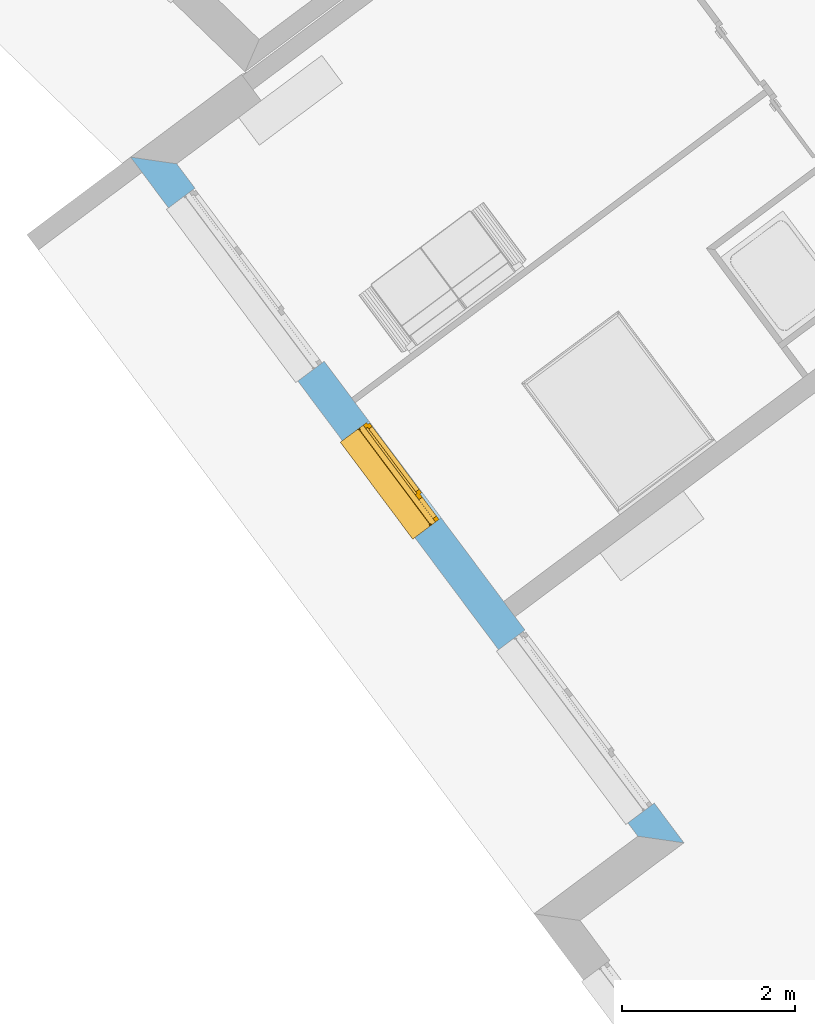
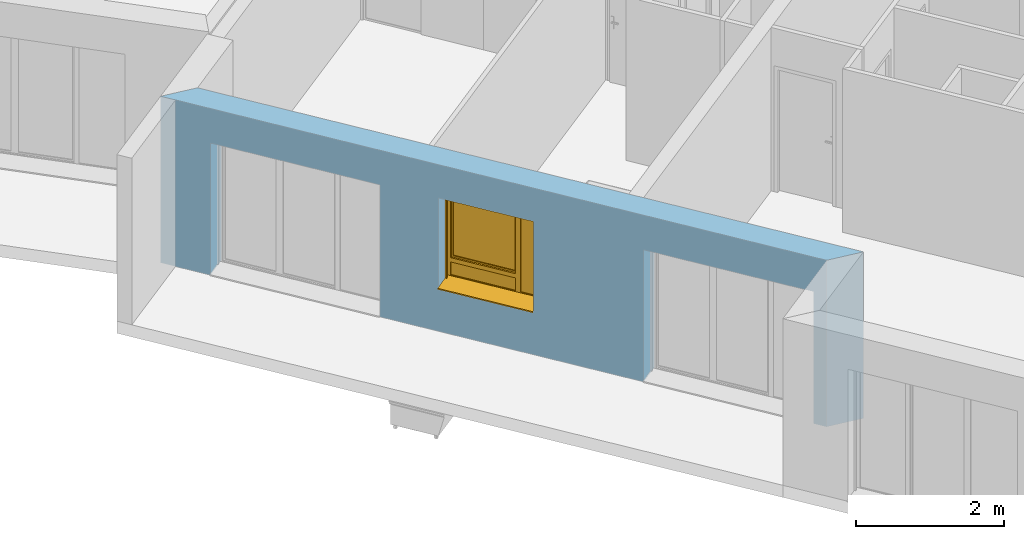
# One storey, part 6 of 195: 1 window, 3 openings, plus 1 element that does not belong to this part.
"""IFC2X3 building model written with IfcOpenShell, lengths in metres."""

from ifc_helpers import new_model, entity, si_unit, converted_unit, derived_unit, money_unit, direction, frame, origin_with_axes, place, context, subcontext, project, spatial, polyline, outline, extrude, open_shell, faceted_brep, surface_model, source, transform, mapped, material, layer, layer_set, layer_usage, type_object, element, fill, save


model = new_model("IFC2X3")

# Units and contexts
model_context = context("Model", 3, precision=1e-05, world=origin_with_axes(), true_north=direction((0.0, 1.0)))
body_context = subcontext(model_context, "Body", "Model", "MODEL_VIEW")
ifc_project = project(units=[si_unit("LENGTHUNIT", "METRE"), si_unit("AREAUNIT", "SQUARE_METRE"), si_unit("VOLUMEUNIT", "CUBIC_METRE"), converted_unit("PLANEANGLEUNIT", "DEGREE", entity("IfcPlaneAngleMeasure", 0.0174532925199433), si_unit("PLANEANGLEUNIT", "RADIAN"), dimensions=[0, 0, 0, 0, 0, 0, 0]), money_unit("CHF"), converted_unit("TIMEUNIT", "Year", entity("IfcTimeMeasure", 31557600.0), si_unit("TIMEUNIT", "SECOND"), dimensions=[0, 0, 1, 0, 0, 0, 0]), si_unit("MASSUNIT", "GRAM", prefix="KILO"), si_unit("THERMODYNAMICTEMPERATUREUNIT", "DEGREE_CELSIUS"), si_unit("LUMINOUSINTENSITYUNIT", "LUMEN"), si_unit("ENERGYUNIT", "JOULE", prefix="MEGA"), derived_unit("THERMALCONDUCTANCEUNIT", [(si_unit("POWERUNIT", "WATT"), 1), (si_unit("LENGTHUNIT", "METRE"), -1), (si_unit("THERMODYNAMICTEMPERATUREUNIT", "KELVIN"), -1)]), derived_unit("SPECIFICHEATCAPACITYUNIT", [(si_unit("ENERGYUNIT", "JOULE"), 1), (si_unit("MASSUNIT", "GRAM", prefix="KILO"), -1), (si_unit("THERMODYNAMICTEMPERATUREUNIT", "KELVIN"), -1)]), derived_unit("MASSDENSITYUNIT", [(si_unit("MASSUNIT", "GRAM", prefix="KILO"), 1), (si_unit("VOLUMEUNIT", "CUBIC_METRE"), -1)])], contexts=[model_context])

# Site, building, storey
site_placement = place(None, origin_with_axes())
site = spatial("IfcSite", under=ifc_project, at=site_placement, Name="Site", CompositionType="ELEMENT")
building_placement = place(site_placement, origin_with_axes())
building = spatial("IfcBuilding", under=site, at=building_placement, Name="Bâtiment", CompositionType="ELEMENT")
storey_placement = place(building_placement, origin_with_axes())
storey = spatial("IfcBuildingStorey", under=building, at=storey_placement, Name="rdc", CompositionType="ELEMENT", Elevation=0.0)

# Wall, openings, window
ifc_material_1 = material(Name="Parpaing 312445824")
ifc_layer_1 = layer(ifc_material_1, 0.22, ventilated="UNKNOWN")
ifc_material_2 = material(Name="Isolant styromousse 301821074")
ifc_layer_2 = layer(ifc_material_2, 0.16, ventilated="UNKNOWN")
ifc_layer_set = layer_set([ifc_layer_1, ifc_layer_2], Name="isol int 22+16 0836643197")
ifc_layer_usage = layer_usage(ifc_layer_set, "AXIS2", "POSITIVE", 0.0)
wall_type = type_object("IfcWallType", Name="isol int 22+16 0836643197 380", PredefinedType="NOTDEFINED")
wall_placement = place(storey_placement, frame((9528.242165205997, -1076.621814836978, 57.7), z_axis=(0.0, 0.0, 1.0), x_axis=(0.5984464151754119, -0.8011628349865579, 0.0)))
wall = element("IfcWallStandardCase", 1, at=wall_placement, inside=storey, type_object=wall_type, material=ifc_layer_usage, Name="Mur-113", context=body_context, shape_type="SweptSolid", body=[
    extrude(outline(polyline([(-1.48929757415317e-10, 0.0), (9.803691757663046, 0.0), (10.18369175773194, 0.3799999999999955), (0.3799999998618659, 0.3799999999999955), (-1.48929757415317e-10, 0.0)])), origin_with_axes(), (0.0, 0.0, 1.0), 2.75),
])
opening_1_placement = place(wall_placement, frame((1.982307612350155, 0.0, 0.0), z_axis=(0.0, 0.0, 1.0), x_axis=(1.0, 0.0, 0.0)))
element("IfcOpeningElement", 2, at=opening_1_placement, cuts=wall, Name="Fen-045", context=body_context, shape_type="Brep", body=[
    faceted_brep([(-1.25, 0.4799999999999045, 2.18), (1.250000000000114, 0.4799999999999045, 2.18), (1.25, 5.081409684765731, 2.18), (-1.25, 5.081409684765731, 2.18), (-1.25, 0.4799999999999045, 2.380000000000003), (1.250000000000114, 0.4799999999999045, 2.380000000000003), (1.25, 0.2999999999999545, 2.18), (1.25, 0.2999999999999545, 0.0), (1.25, 5.081409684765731, 0.0), (-1.25, 5.081409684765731, 0.0), (-1.249999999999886, 0.2999999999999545, 2.18), (-1.249999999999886, 0.2999999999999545, 0.0), (-1.25, 0.2199999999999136, 2.18), (-1.25, 0.2199999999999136, 2.380000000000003), (1.250000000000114, 0.2200000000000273, 2.380000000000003), (1.250000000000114, 0.2200000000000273, 2.18), (1.25, -4.701409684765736, 2.18), (1.25, -4.701409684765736, 0.0), (-1.25, -4.701409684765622, 0.0), (-1.25, -4.701409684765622, 2.18)], [[[0, 1, 2, 3]], [[1, 0, 4, 5]], [[1, 6, 7, 8, 2]], [[2, 8, 9, 3]], [[10, 0, 3, 9, 11]], [[0, 10, 12, 13, 4]], [[14, 5, 4, 13]], [[6, 1, 5, 14, 15]], [[6, 15, 16, 17, 7]], [[7, 11, 9, 8]], [[12, 10, 11, 18, 19]], [[12, 15, 14, 13]], [[15, 12, 19, 16]], [[19, 18, 17, 16]], [[11, 7, 17, 18]]]),
])
opening_2_placement = place(wall_placement, frame((4.792672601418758, 0.0, 0.7000000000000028), z_axis=(0.0, 0.0, 1.0), x_axis=(1.0, 0.0, 0.0)))
opening_2 = element("IfcOpeningElement", 3, at=opening_2_placement, cuts=wall, Name="Fen-045", context=body_context, shape_type="Brep", body=[
    faceted_brep([(-0.7000000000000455, 0.4799999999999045, 1.5), (0.7000000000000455, 0.4799999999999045, 1.5), (0.7000000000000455, 5.081409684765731, 1.5), (-0.7000000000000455, 5.081409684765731, 1.5), (-0.7000000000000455, 0.4799999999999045, 1.700000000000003), (0.7000000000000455, 0.4799999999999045, 1.700000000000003), (0.7000000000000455, 0.2999999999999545, 1.5), (0.7000000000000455, 0.2999999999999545, 0.0), (0.7000000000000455, 5.081409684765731, 0.0), (-0.7000000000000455, 5.081409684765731, 0.0), (-0.7000000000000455, 0.2999999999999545, 1.5), (-0.7000000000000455, 0.2999999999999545, 0.0), (-0.7000000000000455, 0.2200000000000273, 1.5), (-0.7000000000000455, 0.2200000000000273, 1.700000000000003), (0.7000000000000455, 0.2200000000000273, 1.700000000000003), (0.7000000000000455, 0.2200000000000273, 1.5), (0.7000000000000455, -4.701409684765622, 1.5), (0.7000000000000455, -4.701409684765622, 0.0), (-0.7000000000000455, -4.701409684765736, 0.0), (-0.7000000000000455, -4.701409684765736, 1.5)], [[[0, 1, 2, 3]], [[1, 0, 4, 5]], [[1, 6, 7, 8, 2]], [[2, 8, 9, 3]], [[10, 0, 3, 9, 11]], [[0, 10, 12, 13, 4]], [[14, 5, 4, 13]], [[6, 1, 5, 14, 15]], [[6, 15, 16, 17, 7]], [[7, 11, 9, 8]], [[12, 10, 11, 18, 19]], [[12, 15, 14, 13]], [[15, 12, 19, 16]], [[19, 18, 17, 16]], [[11, 7, 17, 18]]]),
])
opening_3_placement = place(wall_placement, frame((8.361343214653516, 0.0, 0.0), z_axis=(0.0, 0.0, 1.0), x_axis=(1.0, 0.0, 0.0)))
element("IfcOpeningElement", 4, at=opening_3_placement, cuts=wall, Name="Fen-045", context=body_context, shape_type="Brep", body=[
    faceted_brep([(-1.250000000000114, 0.4800000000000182, 2.18), (1.25, 0.4800000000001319, 2.18), (1.25, 5.081409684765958, 2.18), (-1.250000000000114, 5.081409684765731, 2.18), (-1.250000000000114, 0.4800000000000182, 2.380000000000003), (1.25, 0.4800000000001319, 2.380000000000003), (1.25, 0.3000000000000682, 2.18), (1.25, 0.3000000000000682, 0.0), (1.25, 5.081409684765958, 0.0), (-1.250000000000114, 5.081409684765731, 0.0), (-1.250000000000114, 0.3000000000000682, 2.18), (-1.250000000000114, 0.3000000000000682, 0.0), (-1.25, 0.220000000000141, 2.18), (-1.25, 0.220000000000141, 2.380000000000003), (1.25, 0.220000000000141, 2.380000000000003), (1.25, 0.220000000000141, 2.18), (1.249999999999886, -4.701409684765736, 2.18), (1.249999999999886, -4.701409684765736, 0.0), (-1.25, -4.701409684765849, 0.0), (-1.25, -4.701409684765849, 2.18)], [[[0, 1, 2, 3]], [[1, 0, 4, 5]], [[1, 6, 7, 8, 2]], [[2, 8, 9, 3]], [[10, 0, 3, 9, 11]], [[0, 10, 12, 13, 4]], [[14, 5, 4, 13]], [[6, 1, 5, 14, 15]], [[6, 15, 16, 17, 7]], [[7, 11, 9, 8]], [[12, 10, 11, 18, 19]], [[12, 15, 14, 13]], [[15, 12, 19, 16]], [[19, 18, 17, 16]], [[11, 7, 17, 18]]]),
])
window_style = type_object("IfcWindowStyle", Name="Fenêtre variable 27", ConstructionType="NOTDEFINED", OperationType="TRIPLE_PANEL_RIGHT", ParameterTakesPrecedence=False, Sizeable=False)
shared_shape = source(origin_with_axes(), body_context, "Body", "SurfaceModel", [
    surface_model("IfcShellBasedSurfaceModel", [(-0.7, -0.05100000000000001, 0.05), (-0.7, -0.05100000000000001, 0.04), (0.7, -0.05100000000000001, 0.04000000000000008), (0.7, -0.05100000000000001, 0.05000000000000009), (-0.7, -0.3799999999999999, 0.02899999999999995), (0.7, -0.3799999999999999, 0.02900000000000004), (-0.7, -0.3799999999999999, 0.008999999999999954), (0.7, -0.3799999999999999, 0.00900000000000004), (-0.7, -0.3699999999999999, 0.01899999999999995), (0.7, -0.3699999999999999, 0.01900000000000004)], [open_shell([[[0, 1, 2, 3]], [[1, 4, 5, 2]], [[4, 6, 7, 5]], [[6, 8, 9, 7]]])]),
    faceted_brep([(-0.7, -0.13, 1.7), (-0.697, -0.13, 1.7), (-0.697, 0.13, 1.7), (-0.7, 0.13, 1.7), (-0.7, -0.13, 1.5), (-0.697, -0.13, 1.5), (-0.697, 0.13, 1.5), (-0.7, 0.13, 1.5)], [[[0, 1, 2, 3]], [[4, 5, 1, 0]], [[1, 5, 6, 2]], [[3, 2, 6, 7]], [[0, 3, 7, 4]], [[7, 6, 5, 4]]]),
    faceted_brep([(0.6970000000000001, -0.1299999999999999, 1.7), (0.7000000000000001, -0.1299999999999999, 1.7), (0.7000000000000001, 0.1300000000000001, 1.7), (0.6970000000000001, 0.1300000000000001, 1.7), (0.6970000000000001, -0.1299999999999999, 1.5), (0.7000000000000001, -0.1299999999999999, 1.5), (0.7000000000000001, 0.1300000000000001, 1.5), (0.6970000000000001, 0.1300000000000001, 1.5)], [[[0, 1, 2, 3]], [[4, 5, 1, 0]], [[1, 5, 6, 2]], [[3, 2, 6, 7]], [[0, 3, 7, 4]], [[7, 6, 5, 4]]]),
    faceted_brep([(-0.697, -0.13, 1.5), (0.697, -0.1299999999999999, 1.5), (0.697, -0.1299999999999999, 1.7), (-0.697, -0.13, 1.7), (-0.697, -0.127, 1.5), (0.697, -0.1269999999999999, 1.5), (0.697, -0.1269999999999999, 1.697), (0.697, 0.1270000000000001, 1.697), (0.697, 0.1270000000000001, 1.503), (0.697, -0.1079999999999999, 1.503), (0.697, -0.1079999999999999, 1.5), (0.697, 0.1300000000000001, 1.5), (0.697, 0.1300000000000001, 1.7), (-0.697, 0.13, 1.7), (-0.697, 0.13, 1.5), (-0.697, -0.108, 1.5), (-0.697, -0.108, 1.503), (-0.697, 0.127, 1.503), (-0.697, 0.127, 1.697), (-0.697, -0.127, 1.697)], [[[0, 1, 2, 3]], [[4, 5, 1, 0]], [[1, 5, 6, 7, 8, 9, 10, 11, 12, 2]], [[3, 2, 12, 13]], [[0, 3, 13, 14, 15, 16, 17, 18, 19, 4]], [[19, 6, 5, 4]], [[18, 7, 6, 19]], [[17, 8, 7, 18]], [[16, 9, 8, 17]], [[15, 10, 9, 16]], [[14, 11, 10, 15]], [[13, 12, 11, 14]]]),
    faceted_brep([(-0.694, -0.08075423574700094, 1.585760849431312), (-0.694, -0.08200000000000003, 1.6), (-0.694, -0.0807542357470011, 1.614239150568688), (-0.694, -0.07705479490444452, 1.628045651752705), (-0.694, -0.07101408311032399, 1.641), (-0.694, -0.06281564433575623, 1.652708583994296), (-0.694, -0.05270858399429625, 1.662815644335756), (-0.694, -0.04100000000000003, 1.671014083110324), (-0.694, -0.02804565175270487, 1.677054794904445), (-0.694, -0.01423915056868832, 1.680754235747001), (-0.694, 0.0, 1.682), (-0.694, 0.01423915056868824, 1.680754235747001), (-0.694, 0.02804565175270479, 1.677054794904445), (-0.694, 0.04099999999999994, 1.671014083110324), (-0.694, 0.05270858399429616, 1.662815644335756), (-0.694, 0.06281564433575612, 1.652708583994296), (-0.694, 0.07101408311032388, 1.641), (-0.694, 0.0770547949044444, 1.628045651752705), (-0.694, 0.08075423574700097, 1.614239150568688), (-0.694, 0.0819999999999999, 1.6), (-0.694, 0.08075423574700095, 1.585760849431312), (-0.694, 0.07705479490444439, 1.571954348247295), (-0.694, 0.07101408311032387, 1.559), (-0.694, 0.06281564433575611, 1.547291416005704), (-0.694, 0.05270858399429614, 1.537184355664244), (-0.694, 0.04099999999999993, 1.528985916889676), (-0.694, 0.02804565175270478, 1.522945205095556), (-0.694, 0.01423915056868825, 1.519245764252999), (-0.694, 0.0, 1.518), (-0.694, -0.01423915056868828, 1.519245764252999), (-0.694, -0.02804565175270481, 1.522945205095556), (-0.694, -0.04099999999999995, 1.528985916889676), (-0.694, -0.05270858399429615, 1.537184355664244), (-0.694, -0.06281564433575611, 1.547291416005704), (-0.694, -0.07101408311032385, 1.559), (-0.694, -0.07705479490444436, 1.571954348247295), (0.694, -0.08075423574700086, 1.585760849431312), (0.694, -0.08199999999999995, 1.6), (0.694, -0.08075423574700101, 1.614239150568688), (0.694, -0.07705479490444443, 1.628045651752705), (0.694, -0.07101408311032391, 1.641), (0.694, -0.06281564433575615, 1.652708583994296), (0.694, -0.05270858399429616, 1.662815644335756), (0.694, -0.04099999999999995, 1.671014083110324), (0.694, -0.02804565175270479, 1.677054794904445), (0.694, -0.01423915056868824, 1.680754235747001), (0.694, 0.0, 1.682), (0.694, 0.01423915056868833, 1.680754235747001), (0.694, 0.02804565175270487, 1.677054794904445), (0.694, 0.04100000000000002, 1.671014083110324), (0.694, 0.05270858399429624, 1.662815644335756), (0.694, 0.0628156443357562, 1.652708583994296), (0.694, 0.07101408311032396, 1.641), (0.694, 0.07705479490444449, 1.628045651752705), (0.694, 0.08075423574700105, 1.614239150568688), (0.694, 0.08199999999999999, 1.6), (0.694, 0.08075423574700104, 1.585760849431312), (0.694, 0.07705479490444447, 1.571954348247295), (0.694, 0.07101408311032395, 1.559), (0.694, 0.06281564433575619, 1.547291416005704), (0.694, 0.05270858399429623, 1.537184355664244), (0.694, 0.04100000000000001, 1.528985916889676), (0.694, 0.02804565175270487, 1.522945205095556), (0.694, 0.01423915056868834, 1.519245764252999), (0.694, 0.0, 1.518), (0.694, -0.0142391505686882, 1.519245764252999), (0.694, -0.02804565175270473, 1.522945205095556), (0.694, -0.04099999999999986, 1.528985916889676), (0.694, -0.05270858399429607, 1.537184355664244), (0.694, -0.06281564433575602, 1.547291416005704), (0.694, -0.07101408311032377, 1.559), (0.694, -0.07705479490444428, 1.571954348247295)], [[[0, 1, 2, 3, 4, 5, 6, 7, 8, 9, 10, 11, 12, 13, 14, 15, 16, 17, 18, 19, 20, 21, 22, 23, 24, 25, 26, 27, 28, 29, 30, 31, 32, 33, 34, 35]], [[0, 36, 37, 1]], [[1, 37, 38, 2]], [[2, 38, 39, 3]], [[3, 39, 40, 4]], [[4, 40, 41, 5]], [[5, 41, 42, 6]], [[6, 42, 43, 7]], [[7, 43, 44, 8]], [[8, 44, 45, 9]], [[9, 45, 46, 10]], [[10, 46, 47, 11]], [[11, 47, 48, 12]], [[12, 48, 49, 13]], [[13, 49, 50, 14]], [[14, 50, 51, 15]], [[15, 51, 52, 16]], [[16, 52, 53, 17]], [[17, 53, 54, 18]], [[18, 54, 55, 19]], [[19, 55, 56, 20]], [[20, 56, 57, 21]], [[21, 57, 58, 22]], [[22, 58, 59, 23]], [[23, 59, 60, 24]], [[24, 60, 61, 25]], [[25, 61, 62, 26]], [[26, 62, 63, 27]], [[27, 63, 64, 28]], [[28, 64, 65, 29]], [[29, 65, 66, 30]], [[30, 66, 67, 31]], [[31, 67, 68, 32]], [[32, 68, 69, 33]], [[33, 69, 70, 34]], [[34, 70, 71, 35]], [[35, 71, 36, 0]], [[36, 71, 70, 69, 68, 67, 66, 65, 64, 63, 62, 61, 60, 59, 58, 57, 56, 55, 54, 53, 52, 51, 50, 49, 48, 47, 46, 45, 44, 43, 42, 41, 40, 39, 38, 37]]]),
    faceted_brep([(0.7, -0.105, 0.03), (0.7, -0.1049999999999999, 1.5), (0.7, -0.1299999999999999, 1.5), (0.7, -0.13, 0.03), (0.6749999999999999, -0.105, 0.03), (0.6749999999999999, -0.1049999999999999, 1.5), (0.6749999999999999, -0.1079999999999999, 1.5), (0.697, -0.1079999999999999, 1.5), (0.697, -0.1269999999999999, 1.5), (0.6749999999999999, -0.1269999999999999, 1.5), (0.6749999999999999, -0.1299999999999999, 1.5), (0.6749999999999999, -0.13, 0.03), (0.6749999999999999, -0.127, 0.03), (0.697, -0.127, 0.03), (0.697, -0.108, 0.03), (0.6749999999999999, -0.108, 0.03)], [[[0, 1, 2, 3]], [[4, 5, 1, 0]], [[1, 5, 6, 7, 8, 9, 10, 2]], [[3, 2, 10, 11]], [[0, 3, 11, 12, 13, 14, 15, 4]], [[15, 6, 5, 4]], [[14, 7, 6, 15]], [[13, 8, 7, 14]], [[12, 9, 8, 13]], [[11, 10, 9, 12]]]),
    faceted_brep([(-0.7, -0.105, 0.03), (-0.7, -0.13, 0.03), (-0.7, -0.1299999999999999, 1.5), (-0.7, -0.1049999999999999, 1.5), (-0.6749999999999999, -0.105, 0.03), (-0.6749999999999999, -0.108, 0.03), (-0.697, -0.108, 0.03), (-0.697, -0.127, 0.03), (-0.6749999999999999, -0.127, 0.03), (-0.6749999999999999, -0.13, 0.03), (-0.6749999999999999, -0.1299999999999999, 1.5), (-0.6749999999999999, -0.1269999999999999, 1.5), (-0.697, -0.1269999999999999, 1.5), (-0.697, -0.1079999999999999, 1.5), (-0.6749999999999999, -0.1079999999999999, 1.5), (-0.6749999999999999, -0.1049999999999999, 1.5)], [[[0, 1, 2, 3]], [[0, 4, 5, 6, 7, 8, 9, 1]], [[1, 9, 10, 2]], [[3, 2, 10, 11, 12, 13, 14, 15]], [[4, 0, 3, 15]], [[5, 4, 15, 14]], [[6, 5, 14, 13]], [[7, 6, 13, 12]], [[8, 7, 12, 11]], [[9, 8, 11, 10]]]),
    surface_model("IfcShellBasedSurfaceModel", [(-0.697, -0.115, 1.6), (0.697, -0.1149999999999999, 1.6), (0.697, -0.1199999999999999, 1.6), (-0.697, -0.12, 1.6), (-0.697, -0.115, 1.6), (-0.697, -0.12, 1.6), (0.697, -0.12, 1.6), (0.697, -0.1149999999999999, 1.6)], [open_shell([[[0, 1, 2, 3]], [[4, 5, 6, 7]]])]),
    faceted_brep([(-0.697, -0.115, 1.6), (0.697, -0.1149999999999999, 1.6), (0.697, -0.1166666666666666, 1.583333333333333), (-0.697, -0.1166666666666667, 1.583333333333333), (-0.697, -0.12, 1.6), (0.697, -0.1199999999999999, 1.6), (0.697, -0.1216666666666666, 1.583333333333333), (0.697, -0.1216666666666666, 1.566666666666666), (0.697, -0.1199999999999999, 1.55), (0.697, -0.1149999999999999, 1.55), (0.697, -0.1166666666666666, 1.566666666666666), (-0.697, -0.1166666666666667, 1.566666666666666), (-0.697, -0.115, 1.55), (-0.697, -0.12, 1.55), (-0.697, -0.1216666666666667, 1.566666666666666), (-0.697, -0.1216666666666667, 1.583333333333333)], [[[0, 1, 2, 3]], [[4, 5, 1, 0]], [[1, 5, 6, 7, 8, 9, 10, 2]], [[3, 2, 10, 11]], [[0, 3, 11, 12, 13, 14, 15, 4]], [[15, 6, 5, 4]], [[14, 7, 6, 15]], [[13, 8, 7, 14]], [[12, 9, 8, 13]], [[11, 10, 9, 12]]]),
    faceted_brep([(-0.697, -0.115, 1.55), (0.697, -0.1149999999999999, 1.55), (0.697, -0.1166666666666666, 1.533333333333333), (-0.697, -0.1166666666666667, 1.533333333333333), (-0.697, -0.12, 1.55), (0.697, -0.1199999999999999, 1.55), (0.697, -0.1216666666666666, 1.533333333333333), (0.697, -0.1216666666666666, 1.516666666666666), (0.697, -0.1199999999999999, 1.5), (0.697, -0.1149999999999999, 1.5), (0.697, -0.1166666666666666, 1.516666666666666), (-0.697, -0.1166666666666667, 1.516666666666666), (-0.697, -0.115, 1.5), (-0.697, -0.12, 1.5), (-0.697, -0.1216666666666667, 1.516666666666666), (-0.697, -0.1216666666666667, 1.533333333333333)], [[[0, 1, 2, 3]], [[4, 5, 1, 0]], [[1, 5, 6, 7, 8, 9, 10, 2]], [[3, 2, 10, 11]], [[0, 3, 11, 12, 13, 14, 15, 4]], [[15, 6, 5, 4]], [[14, 7, 6, 15]], [[13, 8, 7, 14]], [[12, 9, 8, 13]], [[11, 10, 9, 12]]]),
    faceted_brep([(-0.6749999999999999, 0.0, 1.45), (-0.7, 0.0, 1.45), (-0.7, -0.05000000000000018, 1.45), (-0.6499999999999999, -0.05000000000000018, 1.45), (-0.6499999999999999, -0.02500000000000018, 1.45), (-0.6749999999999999, -0.02500000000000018, 1.45), (-0.6749999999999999, 0.0, 0.3099999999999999), (-0.6499999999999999, 0.0, 0.3099999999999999), (-0.6499999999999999, 0.0, 0.265), (-0.6499999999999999, 0.0, 0.05000000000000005), (-0.7, 0.0, 0.05000000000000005), (-0.7, -0.05000000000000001, 0.05000000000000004), (-0.6499999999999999, -0.05000000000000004, 0.335), (-0.6499999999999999, -0.05000000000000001, 0.05000000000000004), (-0.6499999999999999, -0.05000000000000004, 0.265), (-0.6499999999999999, -0.02500000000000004, 0.335), (-0.6499999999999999, -0.02500000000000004, 0.3099999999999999), (-0.6749999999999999, -0.02500000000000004, 0.3099999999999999)], [[[0, 1, 2, 3, 4, 5]], [[6, 7, 8, 9, 10, 1, 0]], [[1, 10, 11, 2]], [[12, 3, 2, 11, 13, 14]], [[4, 3, 12, 15]], [[15, 16, 17, 5, 4]], [[5, 17, 6, 0]], [[6, 17, 16, 7]], [[16, 15, 12, 14, 8, 7]], [[9, 8, 14, 13]], [[10, 9, 13, 11]]]),
    faceted_brep([(0.3068894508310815, -0.02500000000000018, 1.45), (0.3068894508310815, -0.05000000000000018, 1.45), (0.3768894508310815, -0.05000000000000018, 1.45), (0.3768894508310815, 0.0, 1.45), (0.3318894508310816, 0.0, 1.45), (0.3318894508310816, -0.02500000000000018, 1.45), (0.3068894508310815, -0.02500000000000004, 0.335), (0.3068894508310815, -0.05000000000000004, 0.335), (0.3068894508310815, -0.05000000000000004, 0.265), (0.3068894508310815, -0.05000000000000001, 0.05000000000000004), (0.3768894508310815, -0.05000000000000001, 0.05000000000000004), (0.3768894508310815, 0.0, 0.05000000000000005), (0.3318894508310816, 0.0, 0.3099999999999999), (0.3068894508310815, 0.0, 0.05000000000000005), (0.3068894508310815, 0.0, 0.265), (0.3068894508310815, 0.0, 0.3099999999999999), (0.3318894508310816, -0.02500000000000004, 0.3099999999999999), (0.3068894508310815, -0.02500000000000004, 0.3099999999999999)], [[[0, 1, 2, 3, 4, 5]], [[6, 7, 1, 0]], [[8, 9, 10, 2, 1, 7]], [[11, 3, 2, 10]], [[12, 4, 3, 11, 13, 14, 15]], [[12, 16, 5, 4]], [[5, 16, 17, 6, 0]], [[17, 15, 14, 8, 7, 6]], [[14, 13, 9, 8]], [[13, 11, 10, 9]], [[15, 17, 16, 12]]]),
    faceted_brep([(-0.6499999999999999, -0.02500000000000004, 0.335), (-0.6499999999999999, -0.05000000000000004, 0.335), (0.3068894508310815, -0.05000000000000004, 0.335), (0.3068894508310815, -0.02500000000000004, 0.335), (-0.6499999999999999, -0.02500000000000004, 0.3099999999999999), (-0.6499999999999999, 0.0, 0.3099999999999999), (-0.6499999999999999, 0.0, 0.265), (-0.6499999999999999, -0.05000000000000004, 0.265), (0.3068894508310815, -0.05000000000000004, 0.265), (0.3068894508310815, -0.02500000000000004, 0.3099999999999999), (0.3068894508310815, 0.0, 0.265), (0.3068894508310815, 0.0, 0.3099999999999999)], [[[0, 1, 2, 3]], [[4, 5, 6, 7, 1, 0]], [[2, 1, 7, 8]], [[9, 3, 2, 8, 10, 11]], [[9, 4, 0, 3]], [[5, 4, 9, 11]], [[11, 10, 6, 5]], [[6, 10, 8, 7]]]),
    faceted_brep([(-0.6749999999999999, 0.0, 1.45), (-0.7, 0.0, 1.45), (-0.7, 0.0, 1.5), (0.7, 0.0, 1.5), (0.7, 0.0, 1.45), (0.6499999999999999, 0.0, 1.45), (0.3768894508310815, 0.0, 1.45), (0.3318894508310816, 0.0, 1.45), (0.3318894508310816, 0.0, 1.475), (-0.6749999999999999, 0.0, 1.475), (-0.6749999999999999, -0.02500000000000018, 1.45), (-0.6499999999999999, -0.02500000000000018, 1.45), (-0.6499999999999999, -0.05000000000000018, 1.45), (-0.7, -0.05000000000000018, 1.45), (-0.7, -0.05000000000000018, 1.5), (0.7, -0.05000000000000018, 1.5), (0.7, -0.05000000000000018, 1.45), (0.6499999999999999, -0.05000000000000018, 1.45), (0.3768894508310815, -0.05000000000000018, 1.45), (0.3318894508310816, -0.02500000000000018, 1.45), (0.3068894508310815, -0.05000000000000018, 1.45), (0.3068894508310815, -0.02500000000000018, 1.45), (0.3318894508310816, -0.02500000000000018, 1.475), (-0.6749999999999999, -0.02500000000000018, 1.475)], [[[0, 1, 2, 3, 4, 5, 6, 7, 8, 9]], [[10, 11, 12, 13, 1, 0]], [[2, 1, 13, 14]], [[3, 2, 14, 15]], [[4, 3, 15, 16]], [[5, 4, 16, 17]], [[6, 5, 17, 18]], [[19, 7, 6, 18, 20, 21]], [[7, 19, 22, 8]], [[8, 22, 23, 9]], [[9, 23, 10, 0]], [[21, 11, 10, 23, 22, 19]], [[21, 20, 12, 11]], [[18, 17, 16, 15, 14, 13, 12, 20]]]),
    faceted_brep([(0.6499999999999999, -0.05000000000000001, 0.05), (0.6499999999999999, 0.0, 0.05000000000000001), (0.7, 0.0, 0.05000000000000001), (0.7, -0.05000000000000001, 0.05), (0.6499999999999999, -0.05000000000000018, 1.45), (0.6499999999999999, 0.0, 1.45), (0.7, 0.0, 1.45), (0.7, -0.05000000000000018, 1.45)], [[[0, 1, 2, 3]], [[4, 5, 1, 0]], [[1, 5, 6, 2]], [[3, 2, 6, 7]], [[0, 3, 7, 4]], [[7, 6, 5, 4]]]),
    faceted_brep([(-0.6499999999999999, -0.05000000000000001, 0.05), (-0.6499999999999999, 0.0, 0.05000000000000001), (-0.7, 0.0, 0.05000000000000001), (-0.7, -0.05000000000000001, 0.05), (0.3068894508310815, -0.05000000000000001, 0.05), (0.3068894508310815, 0.0, 0.05000000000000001), (0.3768894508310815, 0.0, 0.05000000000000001), (0.6499999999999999, 0.0, 0.05000000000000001), (0.7, 0.0, 0.05000000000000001), (0.7, 0.0, 0.0), (-0.7, 0.0, 0.0), (-0.7, -0.05, 0.0), (0.7, -0.05, 0.0), (0.7, -0.05000000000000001, 0.05), (0.6499999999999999, -0.05000000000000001, 0.05), (0.3768894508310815, -0.05000000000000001, 0.05)], [[[0, 1, 2, 3]], [[4, 5, 1, 0]], [[1, 5, 6, 7, 8, 9, 10, 2]], [[3, 2, 10, 11]], [[0, 3, 11, 12, 13, 14, 15, 4]], [[15, 6, 5, 4]], [[14, 7, 6, 15]], [[13, 8, 7, 14]], [[12, 9, 8, 13]], [[11, 10, 9, 12]]]),
    faceted_brep([(-0.625, -0.02500000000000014, 1.425), (-0.625, 0.02499999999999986, 1.425), (-0.6749999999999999, 0.02499999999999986, 1.425), (-0.6749999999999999, -0.02500000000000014, 1.425), (-0.625, -0.02500000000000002, 0.3599999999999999), (-0.625, 0.02499999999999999, 0.3599999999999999), (-0.6749999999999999, 0.02499999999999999, 0.3599999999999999), (-0.6749999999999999, -0.02500000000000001, 0.3599999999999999)], [[[0, 1, 2, 3]], [[4, 5, 1, 0]], [[1, 5, 6, 2]], [[3, 2, 6, 7]], [[0, 3, 7, 4]], [[7, 6, 5, 4]]]),
    faceted_brep([(0.2818894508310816, -0.02500000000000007, 0.3599999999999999), (0.2818894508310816, 0.02499999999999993, 0.3599999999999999), (0.3318894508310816, 0.02499999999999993, 0.3599999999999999), (0.3318894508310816, -0.02500000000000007, 0.3599999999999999), (0.2818894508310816, -0.0250000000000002, 1.425), (0.2818894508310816, 0.0249999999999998, 1.425), (0.3318894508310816, 0.0249999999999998, 1.425), (0.3318894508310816, -0.0250000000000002, 1.425)], [[[0, 1, 2, 3]], [[4, 5, 1, 0]], [[1, 5, 6, 2]], [[3, 2, 6, 7]], [[0, 3, 7, 4]], [[7, 6, 5, 4]]]),
    faceted_brep([(0.3318894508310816, -0.02500000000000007, 0.3099999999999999), (0.3318894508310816, 0.02499999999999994, 0.3099999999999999), (0.3318894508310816, 0.02499999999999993, 0.3599999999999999), (0.3318894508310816, -0.02500000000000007, 0.3599999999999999), (-0.6749999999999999, -0.025, 0.3099999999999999), (-0.6749999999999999, 0.02499999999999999, 0.3099999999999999), (-0.6749999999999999, 0.02499999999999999, 0.3599999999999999), (-0.625, 0.02499999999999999, 0.3599999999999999), (0.2818894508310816, 0.02499999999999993, 0.3599999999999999), (0.2818894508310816, -0.02500000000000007, 0.3599999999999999), (-0.625, -0.02500000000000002, 0.3599999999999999), (-0.6749999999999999, -0.02500000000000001, 0.3599999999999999)], [[[0, 1, 2, 3]], [[4, 5, 1, 0]], [[1, 5, 6, 7, 8, 2]], [[3, 2, 8, 9]], [[0, 3, 9, 10, 11, 4]], [[11, 6, 5, 4]], [[10, 7, 6, 11]], [[9, 8, 7, 10]]]),
    faceted_brep([(-0.6749999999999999, -0.02500000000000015, 1.475), (-0.6749999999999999, 0.02499999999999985, 1.475), (-0.6749999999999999, 0.02499999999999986, 1.425), (-0.6749999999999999, -0.02500000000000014, 1.425), (0.3318894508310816, -0.02500000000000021, 1.475), (0.3318894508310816, 0.02499999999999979, 1.475), (0.3318894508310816, 0.0249999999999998, 1.425), (0.2818894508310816, 0.0249999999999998, 1.425), (-0.625, 0.02499999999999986, 1.425), (-0.625, -0.02500000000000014, 1.425), (0.2818894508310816, -0.0250000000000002, 1.425), (0.3318894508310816, -0.0250000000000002, 1.425)], [[[0, 1, 2, 3]], [[4, 5, 1, 0]], [[1, 5, 6, 7, 8, 2]], [[3, 2, 8, 9]], [[0, 3, 9, 10, 11, 4]], [[11, 6, 5, 4]], [[10, 7, 6, 11]], [[9, 8, 7, 10]]]),
    surface_model("IfcShellBasedSurfaceModel", [(-0.625, -0.01000000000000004, 0.3599999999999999), (0.2818894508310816, -0.01000000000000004, 0.3599999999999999), (0.2818894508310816, -0.01000000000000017, 1.425), (-0.625, -0.01000000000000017, 1.425)], [open_shell([[[0, 1, 2, 3]]])]),
    surface_model("IfcShellBasedSurfaceModel", [(-0.625, 0.009999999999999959, 0.3599999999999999), (-0.625, 0.00999999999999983, 1.425), (0.2818894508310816, 0.00999999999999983, 1.425), (0.2818894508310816, 0.009999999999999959, 0.3599999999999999)], [open_shell([[[0, 1, 2, 3]]])]),
    surface_model("IfcShellBasedSurfaceModel", [(0.3768894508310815, -0.035, 0.05), (0.65, -0.035, 0.05), (0.65, -0.03500000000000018, 1.45), (0.3768894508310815, -0.03500000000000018, 1.45)], [open_shell([[[0, 1, 2, 3]]])]),
    surface_model("IfcShellBasedSurfaceModel", [(0.3768894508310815, -0.015, 0.05), (0.3768894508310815, -0.01500000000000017, 1.45), (0.65, -0.01500000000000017, 1.45), (0.65, -0.015, 0.05)], [open_shell([[[0, 1, 2, 3]]])]),
    surface_model("IfcShellBasedSurfaceModel", [(-0.6499999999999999, -0.035, 0.05), (0.3068894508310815, -0.035, 0.05), (0.3068894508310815, -0.03500000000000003, 0.265), (-0.6499999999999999, -0.03500000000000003, 0.265)], [open_shell([[[0, 1, 2, 3]]])]),
    surface_model("IfcShellBasedSurfaceModel", [(-0.6499999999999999, -0.015, 0.05), (-0.6499999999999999, -0.01500000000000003, 0.265), (0.3068894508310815, -0.01500000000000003, 0.265), (0.3068894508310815, -0.015, 0.05)], [open_shell([[[0, 1, 2, 3]]])]),
])
window_placement = place(opening_2_placement, frame((-0.6999999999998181, 0.0, 0.0), z_axis=(0.0, 0.0, 1.0), x_axis=(1.0, 0.0, 0.0)))
window = element("IfcWindow", 5, at=window_placement, inside=storey, type_object=window_style, Name="Fen-045", OverallHeight=1.5, OverallWidth=1.4, context=body_context, shape_type="MappedRepresentation", body=[
    mapped(shared_shape, transform((0.6999999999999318, 0.3500000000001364, 0.0))),
])
fill(opening_2, window)

save(model, "model.ifc")
